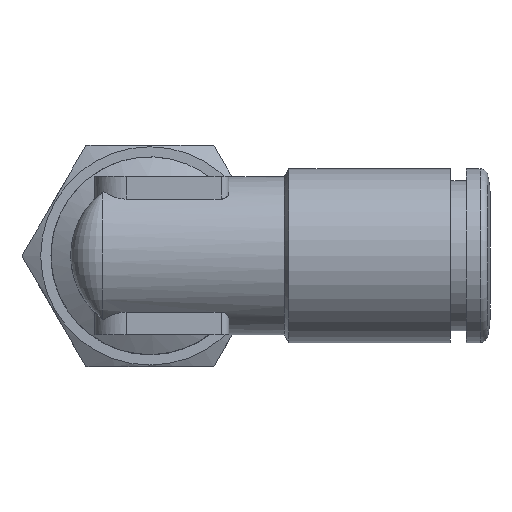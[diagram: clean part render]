
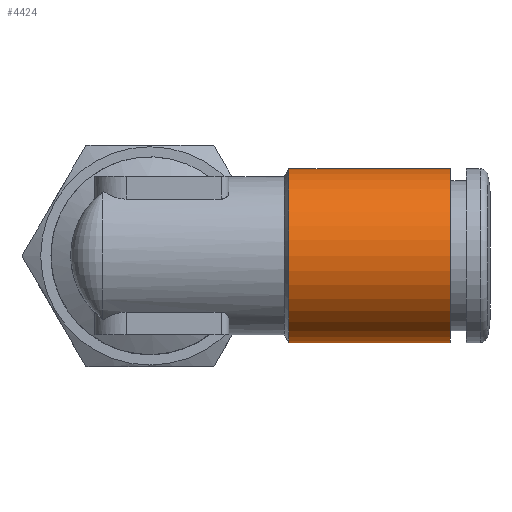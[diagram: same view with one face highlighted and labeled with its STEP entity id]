
A CAD part, top view. The second image highlights one B-rep face of the part: STEP entity #4424.
In plain terms, the highlighted cylindrical face has radius 5.5 mm (diameter 11 mm), a full revolution.
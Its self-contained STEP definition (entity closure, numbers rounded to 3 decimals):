
#1605=ORIENTED_EDGE('',*,*,#1955,.F.);
#1606=ORIENTED_EDGE('',*,*,#1954,.T.);
#1754=CIRCLE('',#4301,5.5);
#1755=CIRCLE('',#4303,5.5);
#1846=VERTEX_POINT('',#3912);
#1847=VERTEX_POINT('',#3915);
#1954=EDGE_CURVE('',#1846,#1846,#1754,.T.);
#1955=EDGE_CURVE('',#1847,#1847,#1755,.T.);
#2070=EDGE_LOOP('',(#1605));
#2071=EDGE_LOOP('',(#1606));
#2191=FACE_BOUND('',#2070,.T.);
#2192=FACE_BOUND('',#2071,.T.);
#2455=DIRECTION('',(1.,0.,0.));
#2456=DIRECTION('',(0.,5.5,0.));
#2457=DIRECTION('',(-1.,0.,0.));
#2458=DIRECTION('',(0.,1.,0.));
#2459=DIRECTION('',(1.,0.,0.));
#2460=DIRECTION('',(0.,5.5,0.));
#3912=CARTESIAN_POINT('',(33.365,34.453,0.));
#3913=CARTESIAN_POINT('',(33.365,28.953,0.));
#3914=CARTESIAN_POINT('',(43.576,28.953,0.));
#3915=CARTESIAN_POINT('',(43.576,34.453,0.));
#3916=CARTESIAN_POINT('',(43.576,28.953,0.));
#4301=AXIS2_PLACEMENT_3D('',#3913,#2455,#2456);
#4302=AXIS2_PLACEMENT_3D('',#3914,#2457,#2458);
#4303=AXIS2_PLACEMENT_3D('',#3916,#2459,#2460);
#4370=CYLINDRICAL_SURFACE('',#4302,5.5);
#4424=ADVANCED_FACE('',(#2191,#2192),#4370,.T.);
